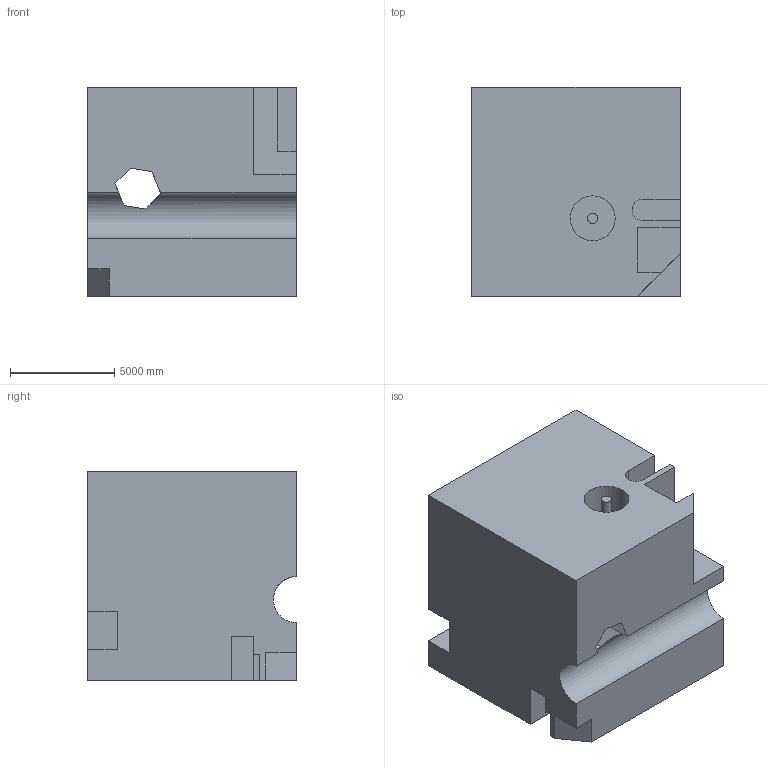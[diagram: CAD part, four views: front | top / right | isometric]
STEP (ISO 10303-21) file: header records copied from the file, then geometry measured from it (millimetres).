
FILE_DESCRIPTION (( 'STEP AP203' ), '1' );
FILE_NAME ('941.STEP', '2022-08-05T15:32:45', ( 'user' ), ( '' ), 'SwSTEP 2.0', 'SolidWorks 2021', '' );
FILE_SCHEMA (( 'CONFIG_CONTROL_DESIGN' ));
Length unit declared in the file: centimetre
Products named in the file (1): 941
Bounding box: 10000 x 10000 x 10000 mm (x, y, z)
Volume: 889730133935.8 mm3; surface area: 732567673.5 mm2
Topology: 1 solids, 1 shells, 43 faces, 120 edges, 80 vertices
Faces by surface type: plane 37, cylinder 6
Entity records: 1447 total; most frequent: CARTESIAN_POINT 256, ORIENTED_EDGE 240, DIRECTION 216, EDGE_CURVE 120, VECTOR 104, LINE 104, VERTEX_POINT 80, AXIS2_PLACEMENT_3D 56
